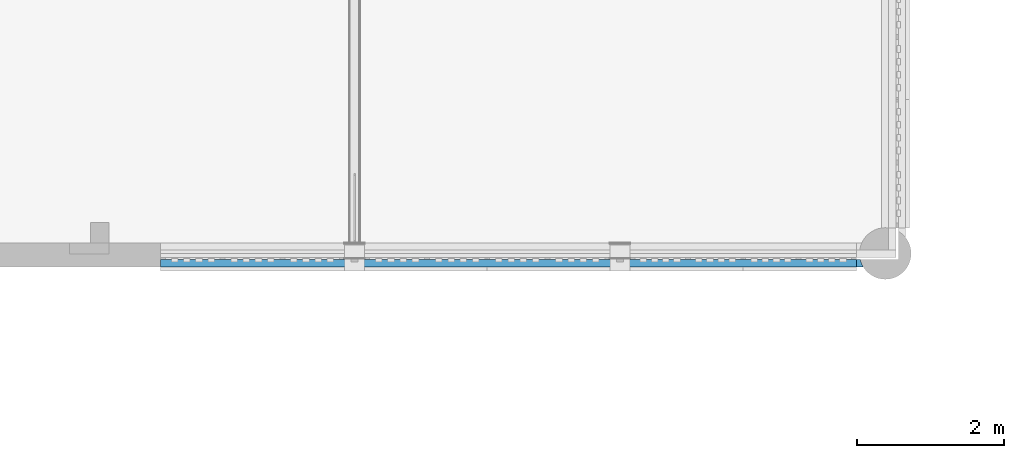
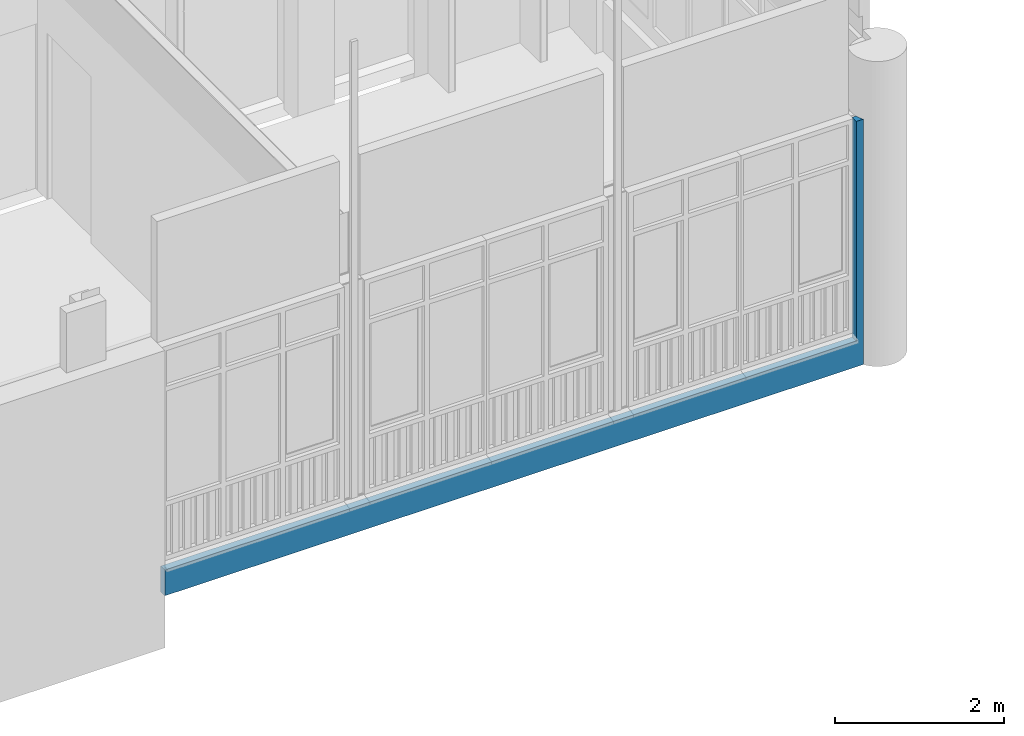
# One storey, part 102 of 135: 1 building element part, 5 openings, 1 element without a shape of its own.
"""IFC2X3 building model written with IfcOpenShell, lengths in millimetres."""

from ifc_helpers import new_model, entity, si_unit, converted_unit, derived_unit, money_unit, direction, frame, origin_with_axes, place, context, subcontext, project, spatial, faceted_brep, material, type_object, element, aggregate, save


model = new_model("IFC2X3")

# Units and contexts
model_context = context("Model", 3, precision=0.01, world=origin_with_axes(), true_north=direction((0.0, 1.0)))
body_context = subcontext(model_context, "Body", "Model", "MODEL_VIEW")
ifc_project = project(units=[si_unit("LENGTHUNIT", "METRE", prefix="MILLI"), si_unit("AREAUNIT", "SQUARE_METRE"), si_unit("VOLUMEUNIT", "CUBIC_METRE"), converted_unit("PLANEANGLEUNIT", "DEGREE", entity("IfcPlaneAngleMeasure", 0.0174532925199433), si_unit("PLANEANGLEUNIT", "RADIAN"), dimensions=[0, 0, 0, 0, 0, 0, 0]), money_unit("EUR"), converted_unit("TIMEUNIT", "Year", entity("IfcTimeMeasure", 31557600.0), si_unit("TIMEUNIT", "SECOND"), dimensions=[0, 0, 1, 0, 0, 0, 0]), si_unit("MASSUNIT", "GRAM", prefix="KILO"), si_unit("THERMODYNAMICTEMPERATUREUNIT", "DEGREE_CELSIUS"), si_unit("LUMINOUSINTENSITYUNIT", "LUMEN"), si_unit("ENERGYUNIT", "JOULE", prefix="MEGA"), derived_unit("THERMALCONDUCTANCEUNIT", [(si_unit("POWERUNIT", "WATT"), 1), (si_unit("LENGTHUNIT", "METRE"), -1), (si_unit("THERMODYNAMICTEMPERATUREUNIT", "KELVIN"), -1)]), derived_unit("SPECIFICHEATCAPACITYUNIT", [(si_unit("ENERGYUNIT", "JOULE"), 1), (si_unit("MASSUNIT", "GRAM", prefix="KILO"), -1), (si_unit("THERMODYNAMICTEMPERATUREUNIT", "KELVIN"), -1)]), derived_unit("MASSDENSITYUNIT", [(si_unit("MASSUNIT", "GRAM", prefix="KILO"), 1), (si_unit("VOLUMEUNIT", "CUBIC_METRE"), -1)])], contexts=[model_context])

# Site, building, storey
site_placement = place(None, origin_with_axes())
site = spatial("IfcSite", under=ifc_project, at=site_placement, Name="Site", CompositionType="ELEMENT")
building_placement = place(site_placement, origin_with_axes())
building = spatial("IfcBuilding", under=site, at=building_placement, Name="Naam gebouw", CompositionType="ELEMENT")
storey_placement = place(building_placement, origin_with_axes())
storey = spatial("IfcBuildingStorey", under=building, at=storey_placement, Name="Begane grond N", CompositionType="ELEMENT", Elevation=0.0)

# Wall, openings, building element part
wall_type = type_object("IfcWallType", Name="Spouwmuur mw-bs 330 330", PredefinedType="NOTDEFINED")
wall_placement = place(storey_placement, frame((22568.72689531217, 3445.668707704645, -449.9999999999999), z_axis=(0.0, 0.0, 1.0), x_axis=(1.0, 0.0, 0.0)))
wall = element("IfcWall", 1, at=wall_placement, inside=storey, type_object=wall_type, Name="_Wand-x")
opening_1_placement = place(wall_placement, frame((8671.303973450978, 0.0, 450.0000000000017), z_axis=(0.0, 0.0, 1.0), x_axis=(1.0, 0.0, 0.0)))
element("IfcOpeningElement", 2, at=opening_1_placement, cuts=wall, Name="_Merk-013", context=body_context, shape_type="Brep", body=[
    faceted_brep([(767.4999999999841, -259.9999999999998, 0.0), (767.4999999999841, -224.9999999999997, 0.0), (767.4999999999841, 0.9999999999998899, 0.0), (767.4999999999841, 1.000000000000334, 3089.999999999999), (767.4999999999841, -259.9999999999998, 3089.999999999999), (767.4999999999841, -330.9999999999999, 0.0), (767.4999999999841, -330.9999999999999, -80.00000000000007), (767.4999999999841, -224.9999999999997, -80.00000000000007), (-767.4999999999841, -224.9999999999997, 0.0), (-767.4999999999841, 0.9999999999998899, 0.0), (-767.4999999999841, 1.000000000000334, 3089.999999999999), (-767.4999999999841, -259.9999999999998, 3089.999999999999), (767.4999999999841, -330.9999999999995, 3089.999999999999), (-767.4999999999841, -330.9999999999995, 3089.999999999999), (-767.4999999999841, -330.9999999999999, 0.0), (-767.4999999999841, -330.9999999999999, -80.00000000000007), (-767.4999999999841, -224.9999999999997, -80.00000000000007), (-767.4999999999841, -259.9999999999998, 0.0)], [[[0, 1, 2, 3, 4]], [[1, 0, 5, 6, 7]], [[1, 8, 9, 2]], [[3, 2, 9, 10]], [[11, 4, 3, 10]], [[5, 0, 4, 12]], [[5, 12, 13, 14, 15, 6]], [[16, 7, 6, 15]], [[8, 1, 7, 16]], [[8, 17, 11, 10, 9]], [[4, 11, 13, 12]], [[17, 14, 13, 11]], [[17, 8, 16, 15, 14]]]),
])
opening_2_placement = place(wall_placement, frame((1246.857907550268, 0.0, 449.9999999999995), z_axis=(0.0, 0.0, 1.0), x_axis=(1.0, 0.0, 0.0)))
element("IfcOpeningElement", 3, at=opening_2_placement, cuts=wall, Name="_Merk-015", context=body_context, shape_type="Brep", body=[
    faceted_brep([(1246.86484772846, -259.9999999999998, 0.0), (1246.86484772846, -224.9999999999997, 0.0), (1246.86484772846, 0.9999999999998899, 0.0), (1246.86484772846, 1.000000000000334, 4090.0), (1246.86484772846, -259.9999999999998, 4090.0), (1246.86484772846, -330.9999999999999, 0.0), (1246.86484772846, -330.9999999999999, -80.00000000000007), (1246.86484772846, -224.9999999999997, -80.00000000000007), (-1246.86484772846, -224.9999999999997, 0.0), (-1246.86484772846, 0.9999999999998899, 0.0), (-1246.86484772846, 1.000000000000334, 4090.0), (-1246.86484772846, -259.9999999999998, 4090.0), (1246.86484772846, -330.9999999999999, 4090.0), (-1246.86484772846, -330.9999999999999, 4090.0), (-1246.86484772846, -330.9999999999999, 0.0), (-1246.86484772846, -330.9999999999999, -80.00000000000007), (-1246.86484772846, -224.9999999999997, -80.00000000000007), (-1246.86484772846, -259.9999999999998, 0.0)], [[[0, 1, 2, 3, 4]], [[1, 0, 5, 6, 7]], [[1, 8, 9, 2]], [[3, 2, 9, 10]], [[11, 4, 3, 10]], [[5, 0, 4, 12]], [[5, 12, 13, 14, 15, 6]], [[16, 7, 6, 15]], [[8, 1, 7, 16]], [[8, 17, 11, 10, 9]], [[4, 11, 13, 12]], [[17, 14, 13, 11]], [[17, 8, 16, 15, 14]]]),
])
opening_3_placement = place(wall_placement, frame((7136.303973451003, 0.0, 450.0000000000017), z_axis=(0.0, 0.0, 1.0), x_axis=(1.0, 0.0, 0.0)))
element("IfcOpeningElement", 4, at=opening_3_placement, cuts=wall, Name="_Merk-013sp", context=body_context, shape_type="Brep", body=[
    faceted_brep([(767.4999999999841, -259.9999999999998, 0.0), (767.4999999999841, -224.9999999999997, 0.0), (767.4999999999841, 0.9999999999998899, 0.0), (767.4999999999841, 1.000000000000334, 3089.999999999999), (767.4999999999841, -259.9999999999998, 3089.999999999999), (767.4999999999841, -330.9999999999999, 0.0), (767.4999999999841, -330.9999999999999, -80.00000000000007), (767.4999999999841, -224.9999999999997, -80.00000000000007), (-767.4999999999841, -224.9999999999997, 0.0), (-767.4999999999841, 0.9999999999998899, 0.0), (-767.4999999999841, 1.000000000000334, 3089.999999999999), (-767.4999999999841, -259.9999999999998, 3089.999999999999), (767.4999999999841, -330.9999999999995, 3089.999999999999), (-767.4999999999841, -330.9999999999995, 3089.999999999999), (-767.4999999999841, -330.9999999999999, 0.0), (-767.4999999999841, -330.9999999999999, -80.00000000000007), (-767.4999999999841, -224.9999999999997, -80.00000000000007), (-767.4999999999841, -259.9999999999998, 0.0)], [[[0, 1, 2, 3, 4]], [[1, 0, 5, 6, 7]], [[1, 8, 9, 2]], [[3, 2, 9, 10]], [[11, 4, 3, 10]], [[5, 0, 4, 12]], [[5, 12, 13, 14, 15, 6]], [[16, 7, 6, 15]], [[8, 1, 7, 16]], [[8, 17, 11, 10, 9]], [[4, 11, 13, 12]], [[17, 14, 13, 11]], [[17, 8, 16, 15, 14]]]),
])
opening_4_placement = place(wall_placement, frame((5262.533668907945, 0.0, 450.0000000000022), z_axis=(0.0, 0.0, 1.0), x_axis=(1.0, 0.0, 0.0)))
element("IfcOpeningElement", 5, at=opening_4_placement, cuts=wall, Name="_Merk-014", context=body_context, shape_type="Brep", body=[
    faceted_brep([(831.2703045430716, -259.9999999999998, 0.0), (831.2703045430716, -224.9999999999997, 0.0), (-831.2703045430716, -224.9999999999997, 0.0), (-831.2703045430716, 0.9999999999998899, 0.0), (1106.270304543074, 0.9999999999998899, 0.0), (1106.270304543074, -259.9999999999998, 0.0), (831.2703045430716, -330.9999999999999, 0.0), (831.2703045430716, -330.9999999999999, -80.00000000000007), (831.2703045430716, -224.9999999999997, -80.00000000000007), (-831.2703045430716, -224.9999999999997, -80.00000000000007), (-831.2703045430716, -259.9999999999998, 0.0), (-831.2703045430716, -259.9999999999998, 3089.999999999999), (-831.2703045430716, 1.000000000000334, 3089.999999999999), (1106.270304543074, 1.000000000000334, 3089.999999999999), (1106.270304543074, -259.9999999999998, 3089.999999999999), (1106.270304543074, -331.0000000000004, 0.0), (1106.270304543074, -330.9999999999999, 3089.999999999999), (-831.2703045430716, -330.9999999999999, 3089.999999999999), (-831.2703045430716, -330.9999999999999, 0.0), (-831.2703045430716, -330.9999999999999, -80.00000000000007)], [[[0, 1, 2, 3, 4, 5]], [[1, 0, 6, 7, 8]], [[2, 1, 8, 9]], [[2, 10, 11, 12, 3]], [[13, 4, 3, 12]], [[14, 5, 4, 13]], [[6, 0, 5, 15]], [[6, 15, 16, 17, 18, 19, 7]], [[9, 8, 7, 19]], [[10, 2, 9, 19, 18]], [[10, 18, 17, 11]], [[11, 14, 13, 12]], [[5, 14, 16, 15]], [[14, 11, 17, 16]]]),
])
opening_5_placement = place(wall_placement, frame((3599.993059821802, 0.0, 450.0000000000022), z_axis=(0.0, 0.0, 1.0), x_axis=(1.0, 0.0, 0.0)))
element("IfcOpeningElement", 6, at=opening_5_placement, cuts=wall, Name="_Merk-014", context=body_context, shape_type="Brep", body=[
    faceted_brep([(831.2703045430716, -259.9999999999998, 0.0), (831.2703045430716, -224.9999999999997, 0.0), (831.2703045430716, 0.9999999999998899, 0.0), (831.2703045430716, 1.000000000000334, 3089.999999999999), (831.2703045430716, -259.9999999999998, 3089.999999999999), (831.2703045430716, -330.9999999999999, 0.0), (831.2703045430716, -330.9999999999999, -80.00000000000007), (831.2703045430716, -224.9999999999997, -80.00000000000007), (-831.2703045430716, -224.9999999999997, 0.0), (-831.2703045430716, -259.9999999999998, 0.0), (-1106.270304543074, -259.9999999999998, 0.0), (-1106.270304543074, 0.9999999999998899, 0.0), (-1106.270304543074, 1.000000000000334, 3089.999999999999), (-1106.270304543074, -259.9999999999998, 3089.999999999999), (831.2703045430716, -330.9999999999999, 3089.999999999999), (-1106.270304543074, -330.9999999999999, 3089.999999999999), (-1106.270304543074, -331.0000000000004, 0.0), (-831.2703045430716, -330.9999999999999, 0.0), (-831.2703045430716, -330.9999999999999, -80.00000000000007), (-831.2703045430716, -224.9999999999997, -80.00000000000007)], [[[0, 1, 2, 3, 4]], [[1, 0, 5, 6, 7]], [[8, 9, 10, 11, 2, 1]], [[3, 2, 11, 12]], [[13, 4, 3, 12]], [[5, 0, 4, 14]], [[5, 14, 15, 16, 17, 18, 6]], [[19, 7, 6, 18]], [[8, 1, 7, 19]], [[9, 8, 19, 18, 17]], [[9, 17, 16, 10]], [[10, 13, 12, 11]], [[4, 13, 15, 14]], [[13, 10, 16, 15]]]),
])
ifc_material = material(Name="Steen - Baksteen AFW")
building_element_part_placement = place(wall_placement, origin_with_axes())
building_element_part = element("IfcBuildingElementPart", 7, at=building_element_part_placement, material=ifc_material, Name="Steen - Baksteen AFW", context=body_context, shape_type="Brep", body=[
    faceted_brep([(2768.722755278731, -230.0, 370.0000000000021), (4431.263364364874, -229.9999999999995, 370.0000000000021), (6093.803973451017, -229.9999999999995, 370.0000000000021), (6368.81091362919, -229.9999999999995, 370.0000000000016), (9438.803973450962, -229.9999999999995, 370.0000000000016), (9438.803973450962, -229.9999999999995, 450.0000000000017), (9438.803973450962, -229.9999999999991, 3540.0), (9492.393853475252, -229.9999999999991, 3540.000000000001), (9492.39385347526, -229.9999999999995, 0.0), (0.0, -230.0, 0.0), (0.0, -230.0, 369.9999999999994), (2493.722755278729, -230.0, 369.9999999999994), (2768.722755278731, -329.9999999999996, 370.0000000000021), (4431.263364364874, -329.9999999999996, 370.0000000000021), (6093.803973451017, -329.9999999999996, 370.0000000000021), (6368.81091362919, -329.9999999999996, 370.0000000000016), (9438.803973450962, -329.9999999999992, 370.0000000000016), (9438.803973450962, -259.9999999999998, 450.0000000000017), (9438.803973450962, -329.9999999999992, 3540.0), (9438.803973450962, -259.9999999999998, 3540.0), (9534.284703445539, -329.9999999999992, 3540.000000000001), (9512.90190631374, -290.8403308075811, 3540.000000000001), (9495.450563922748, -244.0514711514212, 3540.000000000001), (9495.450563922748, -244.0514711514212, 0.0), (9512.90190631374, -290.8403308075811, 0.0), (9534.284703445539, -329.9999999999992, 0.0), (0.0, -330.0000000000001, 0.0), (0.0, -247.7777777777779, 369.9999999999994), (-0.00570636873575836, -272.4444444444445, 369.9999999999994), (-0.00570636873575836, -330.0000000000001, 369.9999999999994), (2493.722755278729, -329.9999999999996, 369.9999999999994)], [[[0, 1, 2, 3, 4, 5, 6, 7, 8, 9, 10, 11]], [[1, 0, 12, 13, 14, 2]], [[3, 2, 14, 15]], [[16, 4, 3, 15]], [[17, 5, 4, 16, 18, 19]], [[5, 17, 19, 6]], [[19, 18, 20, 21, 22, 7, 6]], [[22, 23, 8, 7]], [[23, 24, 25, 26, 9, 8]], [[10, 9, 26, 27]], [[11, 10, 27, 28, 29, 30]], [[12, 0, 11, 30]], [[13, 12, 30, 29, 26, 25, 20, 18, 16, 15, 14]], [[20, 25, 24, 21]], [[22, 21, 24, 23]], [[26, 28, 27]], [[29, 28, 26]]]),
])
aggregate(wall, [building_element_part])

save(model, "model.ifc")
